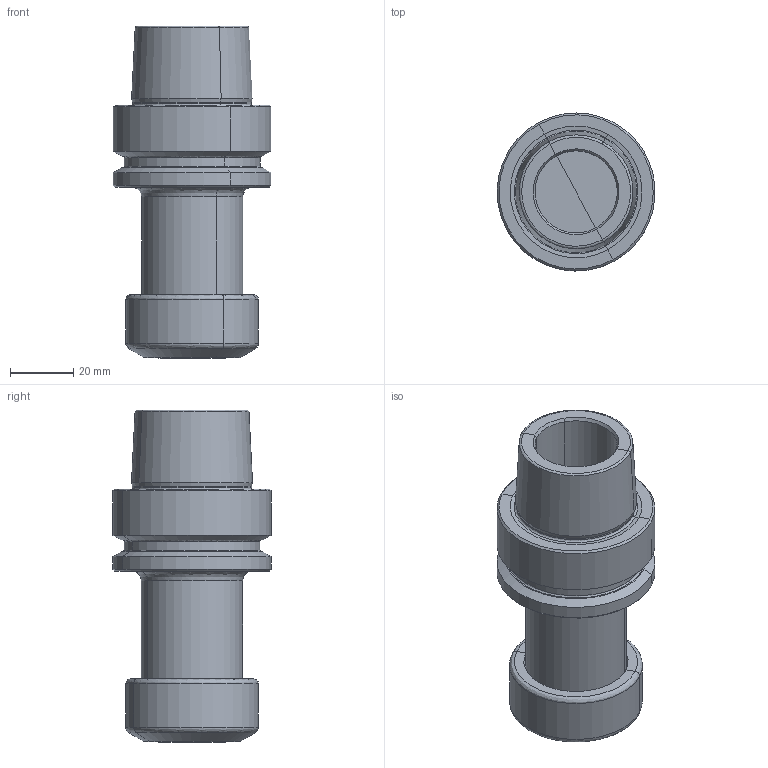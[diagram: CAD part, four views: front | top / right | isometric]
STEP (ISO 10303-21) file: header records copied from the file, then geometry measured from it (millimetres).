
FILE_DESCRIPTION(('CATIA V5 STEP','CAx-IF Rec.Pracs.--- Model Styling and Organization---1.2---2011-12-15'),'2;1');
FILE_NAME('\\nas01\drv1\utils\eitdev\rte\eit\transmagicconvert\db\out\635926119196994867\4500636 L.stp','2016-03-03T12:25:32+00:00',('none'),('none'),'CATIA Version 5 Release 21 SP 5 (IN-10)','CATIA V5 STEP AP214','none');
FILE_SCHEMA(('AUTOMOTIVE_DESIGN { 1 0 10303 214 1 1 1 1 }'));
Length unit declared in the file: millimetre
Products named in the file (1): HSK A 50 ER25X 80
Bounding box: 49.91 x 49.99 x 105.04 mm (x, y, z)
Volume: 95890.8 mm3; surface area: 23472.3 mm2
Topology: 1 solids, 1 shells, 92 faces, 184 edges, 94 vertices
Faces by surface type: revolution 74, plane 18
Entity records: 2876 total; most frequent: CARTESIAN_POINT 1178, ORIENTED_EDGE 368, DIRECTION 208, EDGE_CURVE 184, B_SPLINE_CURVE_WITH_KNOTS 148, AXIS2_PLACEMENT_3D 107, CIRCLE 94, VERTEX_POINT 94
